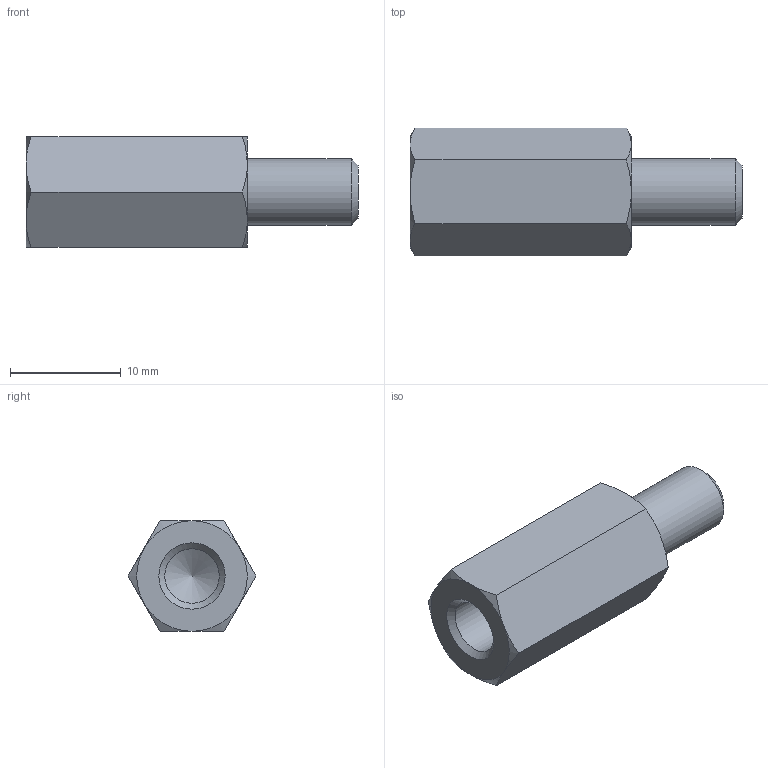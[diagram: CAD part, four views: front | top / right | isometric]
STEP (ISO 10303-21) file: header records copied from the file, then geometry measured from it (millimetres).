
FILE_DESCRIPTION( ( 'STEP AP203' ), '1' );
FILE_NAME( 'C:/Temp/Ganter_Step_05_03_2020/data/3_2/gn6220/gn6220_st/Spacer GN 6220-ST-M6-20-B.stp', '2020-03-13T05:42:46', ( 'License CC BY-ND 4.0' ), ( 'CADENAS' ), ' ', 'PARTsolutions', ' ' );
FILE_SCHEMA( ( 'CONFIG_CONTROL_DESIGN' ) );
Length unit declared in the file: millimetre
Products named in the file (1): _Spacer GN 6220-ST-M6-20-B
Bounding box: 30 x 11.55 x 10 mm (x, y, z)
Volume: 1672.8 mm3; surface area: 1301.9 mm2
Topology: 1 solids, 1 shells, 26 faces, 55 edges, 32 vertices
Faces by surface type: cone 15, plane 9, cylinder 2
Full cylindrical faces by diameter (mm): 4.917 x1, 6 x1
Entity records: 762 total; most frequent: CARTESIAN_POINT 226, DIRECTION 96, ORIENTED_EDGE 96, EDGE_CURVE 48, AXIS2_PLACEMENT_3D 45, EDGE_LOOP 32, VERTEX_POINT 31, FACE_OUTER_BOUND 28
